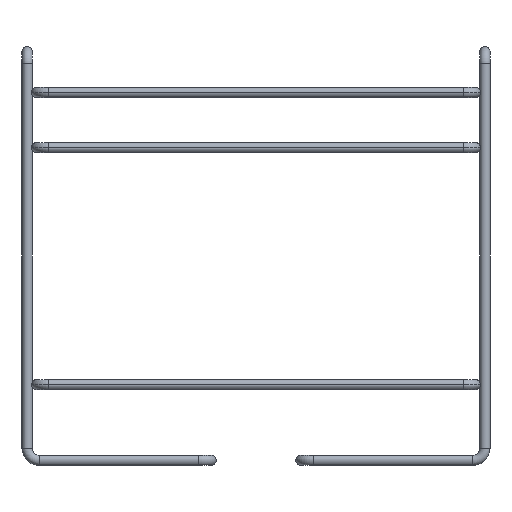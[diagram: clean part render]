
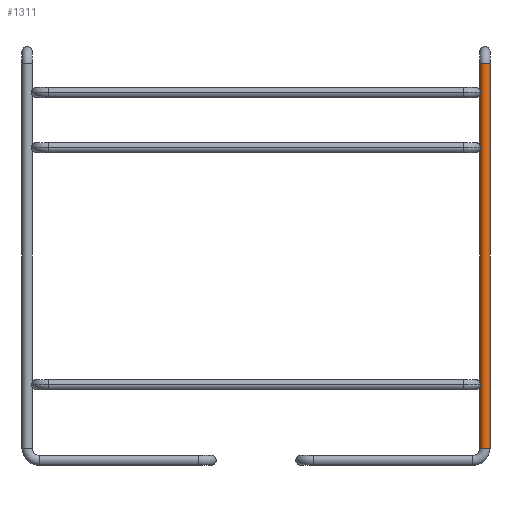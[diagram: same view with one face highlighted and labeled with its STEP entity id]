
A CAD part, front view. The second image highlights one B-rep face of the part: STEP entity #1311.
In plain terms, the highlighted cylindrical face has radius 2.5 mm (diameter 5 mm), a partial arc.
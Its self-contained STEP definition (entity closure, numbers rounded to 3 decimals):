
#1247=CARTESIAN_POINT('Vertex',(109.5,-220.5,-94.)) ;
#1254=CARTESIAN_POINT('Vertex',(114.5,-220.5,-94.)) ;
#1257=CARTESIAN_POINT('Axis2P3D Location',(112.,-220.5,-94.)) ;
#1281=CARTESIAN_POINT('Axis2P3D Location',(112.,-220.5,0.)) ;
#1286=CARTESIAN_POINT('Line Origine',(114.5,-220.5,0.)) ;
#1290=CARTESIAN_POINT('Vertex',(114.5,-220.5,94.)) ;
#1293=CARTESIAN_POINT('Axis2P3D Location',(112.,-220.5,94.)) ;
#1297=CARTESIAN_POINT('Vertex',(109.5,-220.5,94.)) ;
#1300=CARTESIAN_POINT('Line Origine',(109.5,-220.5,0.)) ;
#1258=DIRECTION('Axis2P3D Direction',(0.,0.,1.)) ;
#1282=DIRECTION('Axis2P3D Direction',(0.,0.,1.)) ;
#1283=DIRECTION('Axis2P3D XDirection',(-1.,0.,0.)) ;
#1287=DIRECTION('Vector Direction',(0.,0.,1.)) ;
#1294=DIRECTION('Axis2P3D Direction',(0.,0.,1.)) ;
#1301=DIRECTION('Vector Direction',(0.,0.,1.)) ;
#1259=AXIS2_PLACEMENT_3D('Circle Axis2P3D',#1257,#1258,$) ;
#1284=AXIS2_PLACEMENT_3D('Cylinder Axis2P3D',#1281,#1282,#1283) ;
#1295=AXIS2_PLACEMENT_3D('Circle Axis2P3D',#1293,#1294,$) ;
#1306=ORIENTED_EDGE('',*,*,#1261,.T.) ;
#1307=ORIENTED_EDGE('',*,*,#1292,.F.) ;
#1308=ORIENTED_EDGE('',*,*,#1299,.F.) ;
#1309=ORIENTED_EDGE('',*,*,#1304,.T.) ;
#1288=VECTOR('Line Direction',#1287,1.) ;
#1302=VECTOR('Line Direction',#1301,1.) ;
#1311=ADVANCED_FACE('PartBody',(#1310),#1285,.T.) ;
#1260=CIRCLE('generated circle',#1259,2.5) ;
#1296=CIRCLE('generated circle',#1295,2.5) ;
#1285=CYLINDRICAL_SURFACE('generated cylinder',#1284,2.5) ;
#1261=EDGE_CURVE('',#1248,#1255,#1260,.T.) ;
#1292=EDGE_CURVE('',#1291,#1255,#1289,.F.) ;
#1299=EDGE_CURVE('',#1298,#1291,#1296,.T.) ;
#1304=EDGE_CURVE('',#1298,#1248,#1303,.F.) ;
#1305=EDGE_LOOP('',(#1306,#1307,#1308,#1309)) ;
#1310=FACE_OUTER_BOUND('',#1305,.T.) ;
#1289=LINE('Line',#1286,#1288) ;
#1303=LINE('Line',#1300,#1302) ;
#1248=VERTEX_POINT('',#1247) ;
#1255=VERTEX_POINT('',#1254) ;
#1291=VERTEX_POINT('',#1290) ;
#1298=VERTEX_POINT('',#1297) ;
